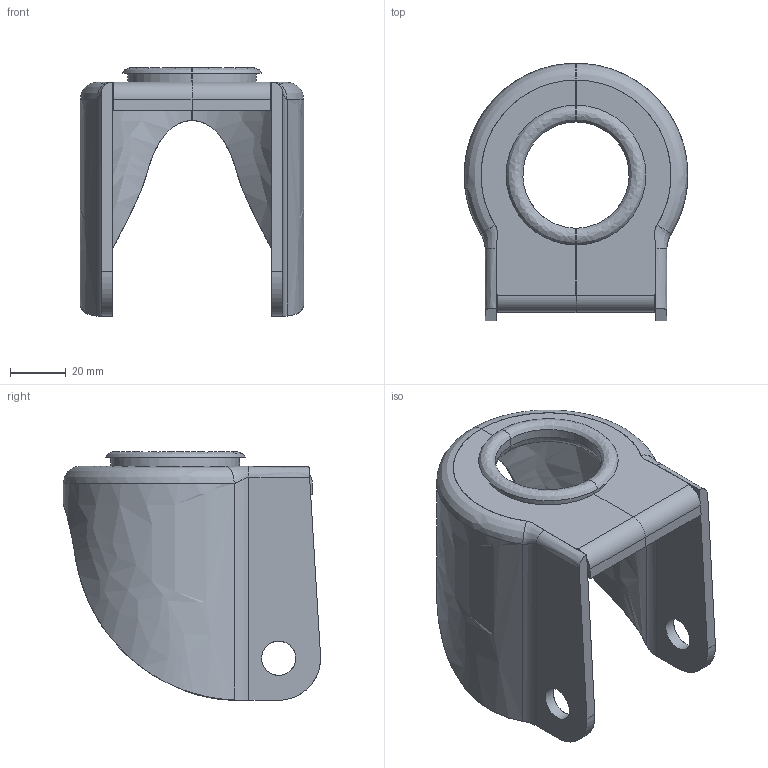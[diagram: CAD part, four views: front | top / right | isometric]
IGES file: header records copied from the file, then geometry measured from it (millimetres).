
Start section: JAMA-IS VERSION  1.0
Global section: file name: E:\tools-models\その他メーカー2\INOAC車輪\7月\HP-100WJ\HP-100WJ-14.igs; native system: CAM-TOOL; preprocessor: C3out Version 11.1.1.50212 (2015/02/12); author: NONE; organization: NONE; date: 200704.164925; units: millimetre
Bounding box: 80 x 92 x 88.88 mm (x, y, z)
Surface area: 40221.4 mm2 (no closed solid volume)
Topology: 0 solids, 0 shells, 68 faces, 776 edges, 778 vertices
Faces by surface type: bspline 68
